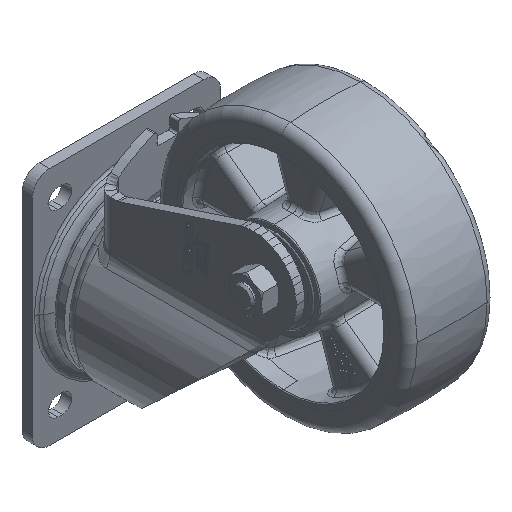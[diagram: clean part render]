
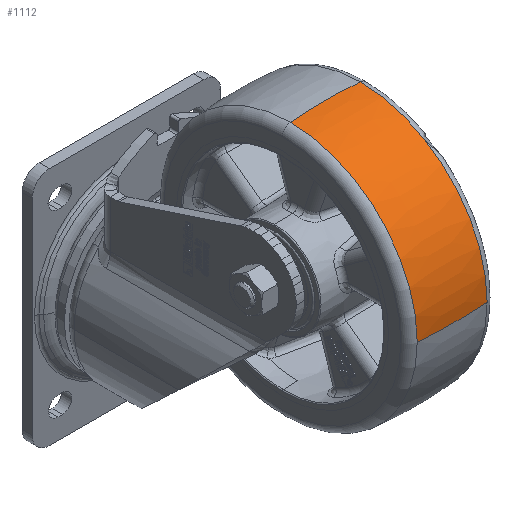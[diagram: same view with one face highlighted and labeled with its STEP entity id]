
A CAD part, isometric view. The second image highlights one B-rep face of the part: STEP entity #1112.
In plain terms, the highlighted toroidal (fillet/blend) face has major radius 175 mm and minor radius 250 mm.
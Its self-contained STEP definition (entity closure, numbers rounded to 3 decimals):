
#603 = TOROIDAL_SURFACE ( 'NONE', #45986, -175., 250. ) ;
#1112 = ADVANCED_FACE ( 'NONE', ( #27241 ), #603, .T. ) ;
#2974 = VERTEX_POINT ( 'NONE', #87972 ) ;
#6836 = DIRECTION ( 'NONE',  ( -1., 0., 0. ) ) ;
#10096 = DIRECTION ( 'NONE',  ( 0., 0., -1. ) ) ;
#11023 = AXIS2_PLACEMENT_3D ( 'NONE', #73842, #19057, #66092 ) ;
#11216 = CARTESIAN_POINT ( 'NONE',  ( 0., -175., 0. ) ) ;
#13886 = VERTEX_POINT ( 'NONE', #17370 ) ;
#17370 = CARTESIAN_POINT ( 'NONE',  ( 20.408, 0., 74.166 ) ) ;
#19057 = DIRECTION ( 'NONE',  ( -1., 0., 0. ) ) ;
#24940 = CARTESIAN_POINT ( 'NONE',  ( -20.408, 74.166, 0. ) ) ;
#27241 = FACE_OUTER_BOUND ( 'NONE', #55044, .T. ) ;
#29200 = VERTEX_POINT ( 'NONE', #96837 ) ;
#33688 = EDGE_CURVE ( 'NONE', #29200, #48675, #37791, .T. ) ;
#37466 = ORIENTED_EDGE ( 'NONE', *, *, #33688, .T. ) ;
#37791 = CIRCLE ( 'NONE', #67845, 250. ) ;
#39425 = AXIS2_PLACEMENT_3D ( 'NONE', #68550, #62127, #53374 ) ;
#42361 = DIRECTION ( 'NONE',  ( 0.082, 0.997, 0. ) ) ;
#43956 = ORIENTED_EDGE ( 'NONE', *, *, #57208, .T. ) ;
#45986 = AXIS2_PLACEMENT_3D ( 'NONE', #46682, #53814, #10096 ) ;
#46469 = DIRECTION ( 'NONE',  ( 0., -1., 0. ) ) ;
#46682 = CARTESIAN_POINT ( 'NONE',  ( 0., 0., 0. ) ) ;
#48675 = VERTEX_POINT ( 'NONE', #24940 ) ;
#49836 = DIRECTION ( 'NONE',  ( 0., 0., 1. ) ) ;
#52772 = ORIENTED_EDGE ( 'NONE', *, *, #72267, .T. ) ;
#53374 = DIRECTION ( 'NONE',  ( 0., 0., 1. ) ) ;
#53814 = DIRECTION ( 'NONE',  ( 1., 0., 0. ) ) ;
#55044 = EDGE_LOOP ( 'NONE', ( #85747, #43956, #52772, #37466 ) ) ;
#57208 = EDGE_CURVE ( 'NONE', #2974, #13886, #60052, .T. ) ;
#60052 = CIRCLE ( 'NONE', #39425, 250. ) ;
#62127 = DIRECTION ( 'NONE',  ( 0., 1., 0. ) ) ;
#66092 = DIRECTION ( 'NONE',  ( 0., -1., 0. ) ) ;
#67845 = AXIS2_PLACEMENT_3D ( 'NONE', #11216, #49836, #42361 ) ;
#68550 = CARTESIAN_POINT ( 'NONE',  ( 0., 0., -175. ) ) ;
#72267 = EDGE_CURVE ( 'NONE', #13886, #29200, #89589, .T. ) ;
#73842 = CARTESIAN_POINT ( 'NONE',  ( -20.408, 0., 0. ) ) ;
#78013 = AXIS2_PLACEMENT_3D ( 'NONE', #92097, #6836, #46469 ) ;
#85747 = ORIENTED_EDGE ( 'NONE', *, *, #89835, .F. ) ;
#87972 = CARTESIAN_POINT ( 'NONE',  ( -20.408, 0., 74.166 ) ) ;
#89589 = CIRCLE ( 'NONE', #78013, 74.166 ) ;
#89835 = EDGE_CURVE ( 'NONE', #2974, #48675, #95874, .T. ) ;
#92097 = CARTESIAN_POINT ( 'NONE',  ( 20.408, 0., 0. ) ) ;
#95874 = CIRCLE ( 'NONE', #11023, 74.166 ) ;
#96837 = CARTESIAN_POINT ( 'NONE',  ( 20.408, 74.166, 0. ) ) ;
